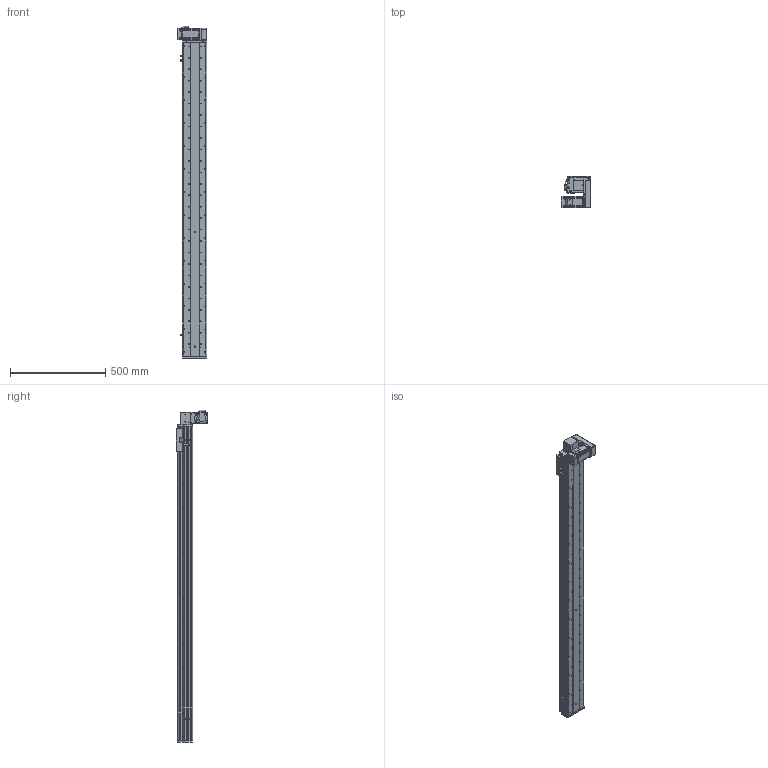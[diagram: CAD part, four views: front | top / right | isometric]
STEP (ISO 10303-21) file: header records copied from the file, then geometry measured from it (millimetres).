
FILE_DESCRIPTION (( 'STEP AP214' ), '1' );
FILE_NAME ('KSD125B-S1450-MLD-CM.STEP', '2017-10-21T03:04:53', ( '微软用户' ), ( '微软中国' ), 'SwSTEP 2.0', 'SolidWorks 2014', '' );
FILE_SCHEMA (( 'AUTOMOTIVE_DESIGN' ));
Length unit declared in the file: millimetre
Products named in the file (17): U倰嫖萇假蚾璃; U倰嫖萇EEㄜSX672; KSD125模组同步带-防撞垫1; 前端板-125宽模组同步带; 125模组同步带-尾端板1; KSD125模组同步带-滑动座1; KSD125B-S1450-MLD-CM; 悵誘欶奻狟殏; 100宽马达安装板连板上下折丝杆同步带; HTPA30S3M150_A_H6_a佪裝蚚; HTPA30S3M150_A_H6_a萇儂蚚; 100宽马达安装板同步带左; KSD125模组1450行程同步带-防尘盖; 125模组1450行程同步带-底板; MHMD042G1CA_2_03; KSD125模组同步带-防撞垫2; 覜茼え68遵圉猾敕
Assembly tree (20 placements, depth 2):
  KSD125B-S1450-MLD-CM
    KSD125模组同步带-滑动座1
    125模组同步带-尾端板1
    前端板-125宽模组同步带
    KSD125模组同步带-防撞垫1
    U倰嫖萇EEㄜSX672  x3
    U倰嫖萇假蚾璃  x3
    覜茼え68遵圉猾敕
    KSD125模组同步带-防撞垫2
    MHMD042G1CA_2_03
    125模组1450行程同步带-底板
    KSD125模组1450行程同步带-防尘盖
    100宽马达安装板同步带左
    HTPA30S3M150_A_H6_a萇儂蚚
    HTPA30S3M150_A_H6_a佪裝蚚
    100宽马达安装板连板上下折丝杆同步带
    悵誘欶奻狟殏
Bounding box: 155 x 166.5 x 1739 mm (x, y, z)
Volume: 5126203.8 mm3; surface area: 1699469.9 mm2
Topology: 19 solids, 22 shells, 2383 faces, 6913 edges, 4570 vertices
Faces by surface type: cylinder 1520, plane 736, cone 105, bspline 22
Entity records: 85343 total; most frequent: CARTESIAN_POINT 16791, DIRECTION 13254, ORIENTED_EDGE 12346, EDGE_CURVE 6251, AXIS2_PLACEMENT_3D 5145, VERTEX_POINT 4162, CIRCLE 2980, VECTOR 2964
